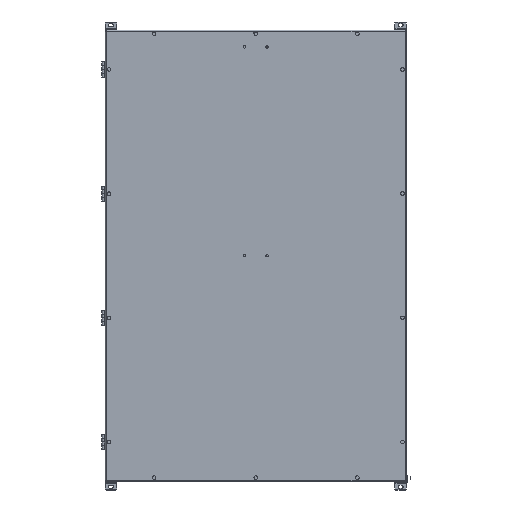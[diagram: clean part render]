
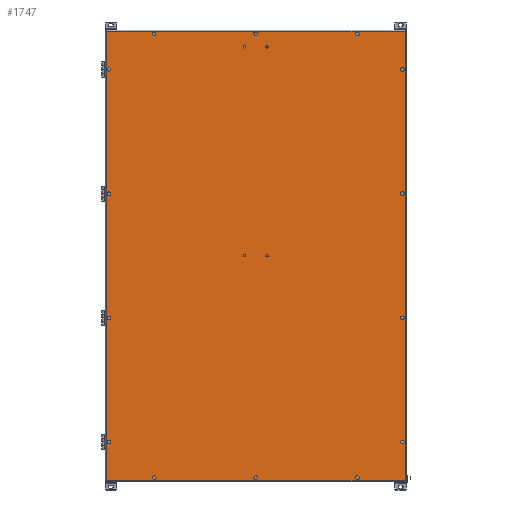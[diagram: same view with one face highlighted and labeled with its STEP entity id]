
A CAD part, top view. The second image highlights one B-rep face of the part: STEP entity #1747.
In plain terms, the highlighted planar face has unit normal (0, 0, 1).
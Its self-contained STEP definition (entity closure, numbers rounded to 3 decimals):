
#1080=CARTESIAN_POINT('',(397.,-597.0,400.5));
#1081=VERTEX_POINT('',#1080);
#1115=CARTESIAN_POINT('',(397.0,597.0,400.5));
#1116=VERTEX_POINT('',#1115);
#1190=CARTESIAN_POINT('',(-397.0,-597.0,400.5));
#1191=VERTEX_POINT('',#1190);
#1206=CARTESIAN_POINT('',(397.0,-597.0,400.5));
#1207=DIRECTION('',(-1.0,0.0,0.0));
#1208=VECTOR('',#1207,794.0);
#1209=LINE('',#1206,#1208);
#1210=EDGE_CURVE('',#1081,#1191,#1209,.T.);
#1262=CARTESIAN_POINT('',(-397.,597.0,400.5));
#1263=VERTEX_POINT('',#1262);
#1284=CARTESIAN_POINT('',(-397.0,-597.0,400.5));
#1285=DIRECTION('',(0.0,1.0,0.0));
#1286=VECTOR('',#1285,1194.0);
#1287=LINE('',#1284,#1286);
#1288=EDGE_CURVE('',#1191,#1263,#1287,.T.);
#1312=CARTESIAN_POINT('',(-397.,597.0,400.5));
#1313=DIRECTION('',(1.0,0.0,0.0));
#1314=VECTOR('',#1313,794.);
#1315=LINE('',#1312,#1314);
#1316=EDGE_CURVE('',#1263,#1116,#1315,.T.);
#1334=CARTESIAN_POINT('',(397.0,597.0,400.5));
#1335=DIRECTION('',(0.0,-1.0,0.0));
#1336=VECTOR('',#1335,1194.0);
#1337=LINE('',#1334,#1336);
#1338=EDGE_CURVE('',#1116,#1081,#1337,.T.);
#1538=CARTESIAN_POINT('',(0.,0.,400.5));
#1539=DIRECTION('',(0.0,0.0,1.0));
#1540=DIRECTION('',(1.0,0.0,0.0));
#1541=AXIS2_PLACEMENT_3D('',#1538,#1539,#1540);
#1542=PLANE('',#1541);
#1543=ORIENTED_EDGE('',*,*,#1210,.F.);
#1544=ORIENTED_EDGE('',*,*,#1338,.F.);
#1545=ORIENTED_EDGE('',*,*,#1316,.F.);
#1546=ORIENTED_EDGE('',*,*,#1288,.F.);
#1547=EDGE_LOOP('',(#1543,#1544,#1545,#1546));
#1548=FACE_OUTER_BOUND('',#1547,.T.);
#1549=CARTESIAN_POINT('',(-386.25,495.0,400.5));
#1550=VERTEX_POINT('',#1549);
#1551=CARTESIAN_POINT('',(-390.,495.0,400.5));
#1552=DIRECTION('',(0.0,0.0,-1.0));
#1553=DIRECTION('',(-1.0,0.0,0.0));
#1554=AXIS2_PLACEMENT_3D('',#1551,#1552,#1553);
#1555=CIRCLE('',#1554,3.75);
#1556=EDGE_CURVE('',#1550,#1550,#1555,.T.);
#1557=ORIENTED_EDGE('',*,*,#1556,.T.);
#1558=EDGE_LOOP('',(#1557));
#1559=FACE_BOUND('',#1558,.T.);
#1560=CARTESIAN_POINT('',(393.75,495.,400.5));
#1561=VERTEX_POINT('',#1560);
#1562=CARTESIAN_POINT('',(390.,495.,400.5));
#1563=DIRECTION('',(0.0,0.0,-1.0));
#1564=DIRECTION('',(-1.0,0.0,0.0));
#1565=AXIS2_PLACEMENT_3D('',#1562,#1563,#1564);
#1566=CIRCLE('',#1565,3.75);
#1567=EDGE_CURVE('',#1561,#1561,#1566,.T.);
#1568=ORIENTED_EDGE('',*,*,#1567,.T.);
#1569=EDGE_LOOP('',(#1568));
#1570=FACE_BOUND('',#1569,.T.);
#1571=CARTESIAN_POINT('',(-386.25,165.,400.5));
#1572=VERTEX_POINT('',#1571);
#1573=CARTESIAN_POINT('',(-390.,165.,400.5));
#1574=DIRECTION('',(0.0,0.0,-1.0));
#1575=DIRECTION('',(-1.0,0.0,0.0));
#1576=AXIS2_PLACEMENT_3D('',#1573,#1574,#1575);
#1577=CIRCLE('',#1576,3.75);
#1578=EDGE_CURVE('',#1572,#1572,#1577,.T.);
#1579=ORIENTED_EDGE('',*,*,#1578,.T.);
#1580=EDGE_LOOP('',(#1579));
#1581=FACE_BOUND('',#1580,.T.);
#1582=CARTESIAN_POINT('',(393.75,165.,400.5));
#1583=VERTEX_POINT('',#1582);
#1584=CARTESIAN_POINT('',(390.,165.,400.5));
#1585=DIRECTION('',(0.0,0.0,-1.0));
#1586=DIRECTION('',(-1.0,0.0,0.0));
#1587=AXIS2_PLACEMENT_3D('',#1584,#1585,#1586);
#1588=CIRCLE('',#1587,3.75);
#1589=EDGE_CURVE('',#1583,#1583,#1588,.T.);
#1590=ORIENTED_EDGE('',*,*,#1589,.T.);
#1591=EDGE_LOOP('',(#1590));
#1592=FACE_BOUND('',#1591,.T.);
#1593=CARTESIAN_POINT('',(-386.25,-165.,400.5));
#1594=VERTEX_POINT('',#1593);
#1595=CARTESIAN_POINT('',(-390.,-165.,400.5));
#1596=DIRECTION('',(0.0,0.0,-1.0));
#1597=DIRECTION('',(-1.0,0.0,0.0));
#1598=AXIS2_PLACEMENT_3D('',#1595,#1596,#1597);
#1599=CIRCLE('',#1598,3.75);
#1600=EDGE_CURVE('',#1594,#1594,#1599,.T.);
#1601=ORIENTED_EDGE('',*,*,#1600,.T.);
#1602=EDGE_LOOP('',(#1601));
#1603=FACE_BOUND('',#1602,.T.);
#1604=CARTESIAN_POINT('',(393.75,-165.,400.5));
#1605=VERTEX_POINT('',#1604);
#1606=CARTESIAN_POINT('',(390.,-165.,400.5));
#1607=DIRECTION('',(0.0,0.0,-1.0));
#1608=DIRECTION('',(-1.0,0.0,0.0));
#1609=AXIS2_PLACEMENT_3D('',#1606,#1607,#1608);
#1610=CIRCLE('',#1609,3.75);
#1611=EDGE_CURVE('',#1605,#1605,#1610,.T.);
#1612=ORIENTED_EDGE('',*,*,#1611,.T.);
#1613=EDGE_LOOP('',(#1612));
#1614=FACE_BOUND('',#1613,.T.);
#1615=CARTESIAN_POINT('',(-386.25,-495.0,400.5));
#1616=VERTEX_POINT('',#1615);
#1617=CARTESIAN_POINT('',(-390.,-495.0,400.5));
#1618=DIRECTION('',(0.0,0.0,-1.0));
#1619=DIRECTION('',(-1.0,0.0,0.0));
#1620=AXIS2_PLACEMENT_3D('',#1617,#1618,#1619);
#1621=CIRCLE('',#1620,3.75);
#1622=EDGE_CURVE('',#1616,#1616,#1621,.T.);
#1623=ORIENTED_EDGE('',*,*,#1622,.T.);
#1624=EDGE_LOOP('',(#1623));
#1625=FACE_BOUND('',#1624,.T.);
#1626=CARTESIAN_POINT('',(393.75,-495.,400.5));
#1627=VERTEX_POINT('',#1626);
#1628=CARTESIAN_POINT('',(390.,-495.,400.5));
#1629=DIRECTION('',(0.0,0.0,-1.0));
#1630=DIRECTION('',(-1.0,0.0,0.0));
#1631=AXIS2_PLACEMENT_3D('',#1628,#1629,#1630);
#1632=CIRCLE('',#1631,3.75);
#1633=EDGE_CURVE('',#1627,#1627,#1632,.T.);
#1634=ORIENTED_EDGE('',*,*,#1633,.T.);
#1635=EDGE_LOOP('',(#1634));
#1636=FACE_BOUND('',#1635,.T.);
#1637=CARTESIAN_POINT('',(3.75,590.0,400.5));
#1638=VERTEX_POINT('',#1637);
#1639=CARTESIAN_POINT('',(0.,590.0,400.5));
#1640=DIRECTION('',(0.0,0.0,-1.0));
#1641=DIRECTION('',(-1.0,0.0,0.0));
#1642=AXIS2_PLACEMENT_3D('',#1639,#1640,#1641);
#1643=CIRCLE('',#1642,3.75);
#1644=EDGE_CURVE('',#1638,#1638,#1643,.T.);
#1645=ORIENTED_EDGE('',*,*,#1644,.T.);
#1646=EDGE_LOOP('',(#1645));
#1647=FACE_BOUND('',#1646,.T.);
#1648=CARTESIAN_POINT('',(3.75,-590.0,400.5));
#1649=VERTEX_POINT('',#1648);
#1650=CARTESIAN_POINT('',(0.,-590.0,400.5));
#1651=DIRECTION('',(0.0,0.0,-1.0));
#1652=DIRECTION('',(-1.0,0.0,0.0));
#1653=AXIS2_PLACEMENT_3D('',#1650,#1651,#1652);
#1654=CIRCLE('',#1653,3.75);
#1655=EDGE_CURVE('',#1649,#1649,#1654,.T.);
#1656=ORIENTED_EDGE('',*,*,#1655,.T.);
#1657=EDGE_LOOP('',(#1656));
#1658=FACE_BOUND('',#1657,.T.);
#1659=CARTESIAN_POINT('',(-266.25,590.0,400.5));
#1660=VERTEX_POINT('',#1659);
#1661=CARTESIAN_POINT('',(-270.0,590.0,400.5));
#1662=DIRECTION('',(0.0,0.0,-1.0));
#1663=DIRECTION('',(-1.0,0.0,0.0));
#1664=AXIS2_PLACEMENT_3D('',#1661,#1662,#1663);
#1665=CIRCLE('',#1664,3.75);
#1666=EDGE_CURVE('',#1660,#1660,#1665,.T.);
#1667=ORIENTED_EDGE('',*,*,#1666,.T.);
#1668=EDGE_LOOP('',(#1667));
#1669=FACE_BOUND('',#1668,.T.);
#1670=CARTESIAN_POINT('',(-266.25,-590.0,400.5));
#1671=VERTEX_POINT('',#1670);
#1672=CARTESIAN_POINT('',(-270.,-590.0,400.5));
#1673=DIRECTION('',(0.0,0.0,-1.0));
#1674=DIRECTION('',(-1.0,0.0,0.0));
#1675=AXIS2_PLACEMENT_3D('',#1672,#1673,#1674);
#1676=CIRCLE('',#1675,3.75);
#1677=EDGE_CURVE('',#1671,#1671,#1676,.T.);
#1678=ORIENTED_EDGE('',*,*,#1677,.T.);
#1679=EDGE_LOOP('',(#1678));
#1680=FACE_BOUND('',#1679,.T.);
#1681=CARTESIAN_POINT('',(273.75,590.0,400.5));
#1682=VERTEX_POINT('',#1681);
#1683=CARTESIAN_POINT('',(270.0,590.0,400.5));
#1684=DIRECTION('',(0.0,0.0,-1.0));
#1685=DIRECTION('',(-1.0,0.0,0.0));
#1686=AXIS2_PLACEMENT_3D('',#1683,#1684,#1685);
#1687=CIRCLE('',#1686,3.75);
#1688=EDGE_CURVE('',#1682,#1682,#1687,.T.);
#1689=ORIENTED_EDGE('',*,*,#1688,.T.);
#1690=EDGE_LOOP('',(#1689));
#1691=FACE_BOUND('',#1690,.T.);
#1692=CARTESIAN_POINT('',(273.75,-590.0,400.5));
#1693=VERTEX_POINT('',#1692);
#1694=CARTESIAN_POINT('',(270.,-590.0,400.5));
#1695=DIRECTION('',(0.0,0.0,-1.0));
#1696=DIRECTION('',(-1.0,0.0,0.0));
#1697=AXIS2_PLACEMENT_3D('',#1694,#1695,#1696);
#1698=CIRCLE('',#1697,3.75);
#1699=EDGE_CURVE('',#1693,#1693,#1698,.T.);
#1700=ORIENTED_EDGE('',*,*,#1699,.T.);
#1701=EDGE_LOOP('',(#1700));
#1702=FACE_BOUND('',#1701,.T.);
#1703=CARTESIAN_POINT('',(33.05,555.0,400.5));
#1704=VERTEX_POINT('',#1703);
#1705=CARTESIAN_POINT('',(30.,555.0,400.5));
#1706=DIRECTION('',(0.0,0.0,-1.0));
#1707=DIRECTION('',(-1.0,0.0,0.0));
#1708=AXIS2_PLACEMENT_3D('',#1705,#1706,#1707);
#1709=CIRCLE('',#1708,3.05);
#1710=EDGE_CURVE('',#1704,#1704,#1709,.T.);
#1711=ORIENTED_EDGE('',*,*,#1710,.T.);
#1712=EDGE_LOOP('',(#1711));
#1713=FACE_BOUND('',#1712,.T.);
#1714=CARTESIAN_POINT('',(-26.95,555.0,400.5));
#1715=VERTEX_POINT('',#1714);
#1716=CARTESIAN_POINT('',(-30.,555.0,400.5));
#1717=DIRECTION('',(0.0,0.0,-1.0));
#1718=DIRECTION('',(-1.0,0.0,0.0));
#1719=AXIS2_PLACEMENT_3D('',#1716,#1717,#1718);
#1720=CIRCLE('',#1719,3.05);
#1721=EDGE_CURVE('',#1715,#1715,#1720,.T.);
#1722=ORIENTED_EDGE('',*,*,#1721,.T.);
#1723=EDGE_LOOP('',(#1722));
#1724=FACE_BOUND('',#1723,.T.);
#1725=CARTESIAN_POINT('',(-26.95,0.,400.5));
#1726=VERTEX_POINT('',#1725);
#1727=CARTESIAN_POINT('',(-30.,0.,400.5));
#1728=DIRECTION('',(0.0,0.0,-1.0));
#1729=DIRECTION('',(-1.0,0.0,0.0));
#1730=AXIS2_PLACEMENT_3D('',#1727,#1728,#1729);
#1731=CIRCLE('',#1730,3.05);
#1732=EDGE_CURVE('',#1726,#1726,#1731,.T.);
#1733=ORIENTED_EDGE('',*,*,#1732,.T.);
#1734=EDGE_LOOP('',(#1733));
#1735=FACE_BOUND('',#1734,.T.);
#1736=CARTESIAN_POINT('',(33.05,0.,400.5));
#1737=VERTEX_POINT('',#1736);
#1738=CARTESIAN_POINT('',(30.,0.,400.5));
#1739=DIRECTION('',(0.0,0.0,-1.0));
#1740=DIRECTION('',(-1.0,0.0,0.0));
#1741=AXIS2_PLACEMENT_3D('',#1738,#1739,#1740);
#1742=CIRCLE('',#1741,3.05);
#1743=EDGE_CURVE('',#1737,#1737,#1742,.T.);
#1744=ORIENTED_EDGE('',*,*,#1743,.T.);
#1745=EDGE_LOOP('',(#1744));
#1746=FACE_BOUND('',#1745,.T.);
#1747=ADVANCED_FACE('',(#1548,#1559,#1570,#1581,#1592,#1603,#1614,#1625,#1636,#1647,#1658,#1669,#1680,#1691,#1702,#1713,#1724,#1735,#1746),#1542,.T.);
